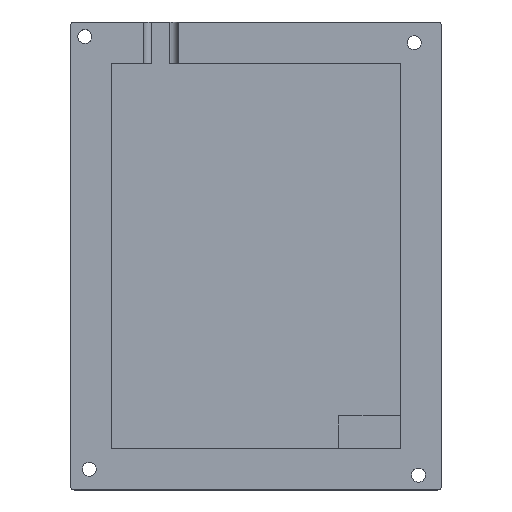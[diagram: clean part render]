
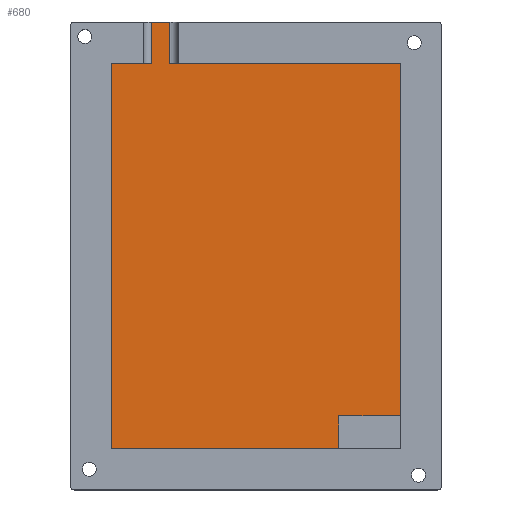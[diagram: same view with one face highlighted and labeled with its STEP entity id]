
A CAD part, top view. The second image highlights one B-rep face of the part: STEP entity #680.
In plain terms, the highlighted planar face has unit normal (0, 0, 1).
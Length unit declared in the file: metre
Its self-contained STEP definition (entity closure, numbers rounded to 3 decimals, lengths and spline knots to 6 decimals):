
#74=ORIENTED_EDGE('',*,*,#270,.T.);
#75=ORIENTED_EDGE('',*,*,#271,.T.);
#76=ORIENTED_EDGE('',*,*,#261,.F.);
#77=ORIENTED_EDGE('',*,*,#272,.F.);
#78=ORIENTED_EDGE('',*,*,#273,.T.);
#79=ORIENTED_EDGE('',*,*,#274,.F.);
#80=ORIENTED_EDGE('',*,*,#275,.T.);
#81=ORIENTED_EDGE('',*,*,#276,.F.);
#82=ORIENTED_EDGE('',*,*,#277,.T.);
#83=ORIENTED_EDGE('',*,*,#278,.T.);
#261=EDGE_CURVE('',#359,#355,#423,.T.);
#270=EDGE_CURVE('',#368,#369,#432,.T.);
#271=EDGE_CURVE('',#369,#355,#433,.T.);
#272=EDGE_CURVE('',#370,#359,#434,.T.);
#273=EDGE_CURVE('',#370,#371,#435,.F.);
#274=EDGE_CURVE('',#372,#371,#436,.T.);
#275=EDGE_CURVE('',#372,#373,#437,.T.);
#276=EDGE_CURVE('',#374,#373,#438,.T.);
#277=EDGE_CURVE('',#374,#375,#439,.T.);
#278=EDGE_CURVE('',#375,#368,#440,.T.);
#355=VERTEX_POINT('',#1007);
#359=VERTEX_POINT('',#1015);
#368=VERTEX_POINT('',#1036);
#369=VERTEX_POINT('',#1037);
#370=VERTEX_POINT('',#1040);
#371=VERTEX_POINT('',#1042);
#372=VERTEX_POINT('',#1044);
#373=VERTEX_POINT('',#1046);
#374=VERTEX_POINT('',#1048);
#375=VERTEX_POINT('',#1050);
#423=LINE('',#1016,#491);
#432=LINE('',#1035,#500);
#433=LINE('',#1038,#501);
#434=LINE('',#1039,#502);
#435=LINE('',#1041,#503);
#436=LINE('',#1043,#504);
#437=LINE('',#1045,#505);
#438=LINE('',#1047,#506);
#439=LINE('',#1049,#507);
#440=LINE('',#1051,#508);
#491=VECTOR('',#806,1.);
#500=VECTOR('',#819,1.);
#501=VECTOR('',#820,1.);
#502=VECTOR('',#821,1.);
#503=VECTOR('',#822,1.);
#504=VECTOR('',#823,1.);
#505=VECTOR('',#824,1.);
#506=VECTOR('',#825,1.);
#507=VECTOR('',#826,1.);
#508=VECTOR('',#827,1.);
#557=EDGE_LOOP('',(#74,#75,#76,#77,#78,#79,#80,#81,#82,#83));
#609=FACE_BOUND('',#557,.T.);
#660=PLANE('',#731);
#680=ADVANCED_FACE('',(#609),#660,.T.);
#731=AXIS2_PLACEMENT_3D('',#1034,#817,#818);
#806=DIRECTION('',(0.,-1.,0.));
#817=DIRECTION('',(0.,0.,1.));
#818=DIRECTION('',(1.,0.,0.));
#819=DIRECTION('',(0.,1.,0.));
#820=DIRECTION('',(1.,0.,0.));
#821=DIRECTION('',(1.,0.,0.));
#822=DIRECTION('',(0.,-1.,0.));
#823=DIRECTION('',(1.,0.,0.));
#824=DIRECTION('',(0.,-1.,0.));
#825=DIRECTION('',(1.,0.,0.));
#826=DIRECTION('',(0.,-1.,0.));
#827=DIRECTION('',(1.,0.,0.));
#1007=CARTESIAN_POINT('',(0.010914,0.01439,0.003));
#1015=CARTESIAN_POINT('',(0.010914,0.099687,0.003));
#1016=CARTESIAN_POINT('',(0.010914,0.053055,0.003));
#1034=CARTESIAN_POINT('',(-0.024086,0.053053,0.003));
#1035=CARTESIAN_POINT('',(-0.004086,0.053053,0.003));
#1036=CARTESIAN_POINT('',(-0.004086,0.006423,0.003));
#1037=CARTESIAN_POINT('',(-0.004086,0.01439,0.003));
#1038=CARTESIAN_POINT('',(-0.024086,0.01439,0.003));
#1039=CARTESIAN_POINT('',(-0.016008,0.099687,0.003));
#1040=CARTESIAN_POINT('',(-0.044929,0.099687,0.003));
#1041=CARTESIAN_POINT('',(-0.044929,0.053053,0.003));
#1042=CARTESIAN_POINT('',(-0.044929,0.109683,0.003));
#1043=CARTESIAN_POINT('',(-0.047112,0.109683,0.003));
#1044=CARTESIAN_POINT('',(-0.049294,0.109683,0.003));
#1045=CARTESIAN_POINT('',(-0.049294,0.099687,0.003));
#1046=CARTESIAN_POINT('',(-0.049294,0.099687,0.003));
#1047=CARTESIAN_POINT('',(-0.016008,0.099687,0.003));
#1048=CARTESIAN_POINT('',(-0.059086,0.099687,0.003));
#1049=CARTESIAN_POINT('',(-0.059086,0.089534,0.003));
#1050=CARTESIAN_POINT('',(-0.059086,0.006423,0.003));
#1051=CARTESIAN_POINT('',(-0.024086,0.006423,0.003));
